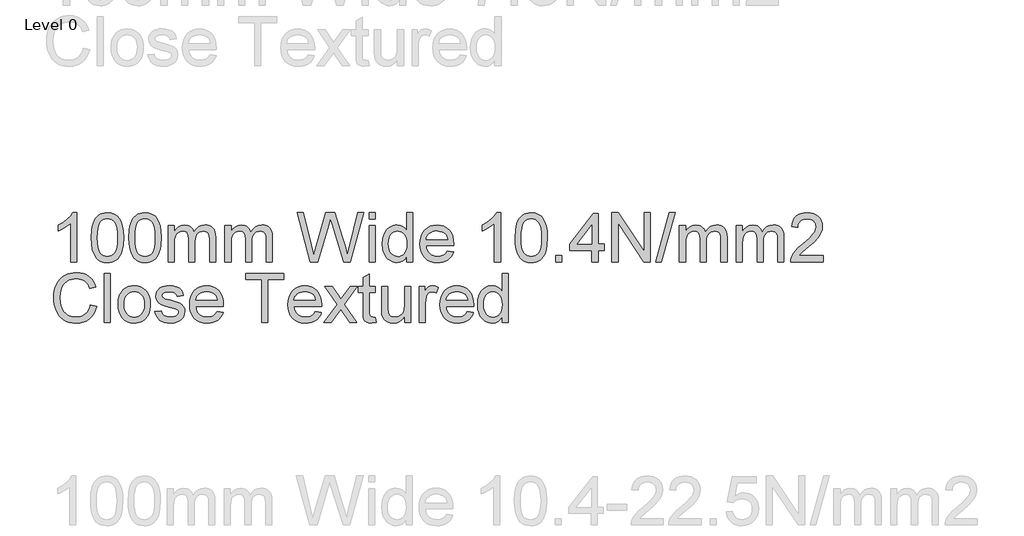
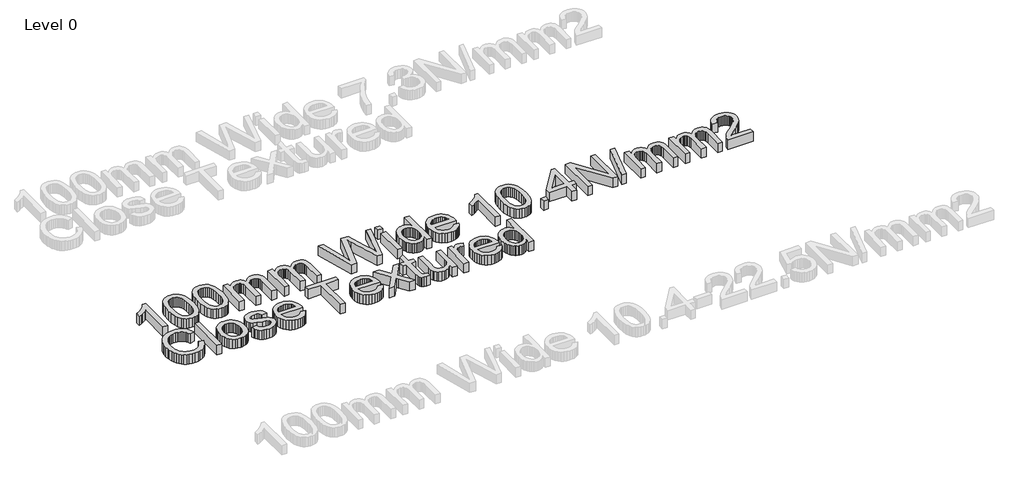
# One storey, part 2 of 14: 1 proxy.
"""IFC4 building model written with IfcOpenShell, lengths in millimetres."""

from ifc_helpers import new_model, si_unit, origin, origin_with_axes, place, context, project, spatial, polyline, outline, extrude, element, save

model = new_model("IFC4")

# Units and contexts
model_context = context("Model", 3, world=origin())
ifc_project = project(units=[si_unit("LENGTHUNIT", "METRE", prefix="MILLI")], contexts=[model_context])

# Site, building, storey
site = spatial("IfcSite", under=ifc_project)
building = spatial("IfcBuilding", under=site)
storey = spatial("IfcBuildingStorey", under=building, Name="Level 0", Elevation=0.0)

# Proxy
placement = place(None, origin())
element("IfcBuildingElementProxy", 1, Name="600mm Arial", ObjectType="600mm Arial", at=placement, inside=storey, context=model_context, shape_type="SweptSolid", body=[
    extrude(outline(polyline([(-37554.2481228, 6170.621248), (-37628.0942766, 6170.621248), (-37628.0942766, 6631.0058634), (-37658.9236035, 6606.0719692), (-37698.0461997, 6581.1741326), (-37739.1159112, 6559.4133153), (-37775.7865843, 6543.8904788), (-37775.7865843, 6613.6981711), (-37717.7877862, 6645.2486519), (-37667.541392, 6682.7847096), (-37627.932017, 6722.7005749), (-37601.8442766, 6761.3904788), (-37554.2481228, 6761.3904788), (-37554.2481228, 6170.621248)])), origin_with_axes(), (0.0, 0.0, 1.0), 150.0),
    extrude(outline(polyline([(-37378.8635074, 6461.246248), (-37373.4368247, 6555.8075461), (-37366.6534713, 6595.9082071), (-37357.1567766, 6631.2222096), (-37344.9873055, 6662.0380148), (-37330.1856228, 6688.6440846), (-37312.7517285, 6711.0404187), (-37292.6856228, 6729.2270172), (-37269.9196973, 6743.2985317), (-37244.3863439, 6753.3496134), (-37216.0855627, 6759.3802624), (-37185.0173535, 6761.3904788), (-37139.5125458, 6756.6308634), (-37098.7673535, 6742.3520172), (-37064.6928343, 6719.1128346), (-37039.2000458, 6687.4722096), (-37019.9452382, 6647.7005749), (-37004.5846612, 6600.0683634), (-36994.5245651, 6539.5815846), (-36991.1711997, 6461.246248), (-36996.5437958, 6367.2258153), (-37003.259541, 6327.2603706), (-37012.6615843, 6291.9914403), (-37024.736404, 6261.1621134), (-37039.4704785, 6234.5154788), (-37056.8638079, 6212.0515365), (-37076.916392, 6193.7702865), (-37099.7093608, 6179.6041206), (-37125.3238439, 6169.4854307), (-37153.7598415, 6163.4142168), (-37185.0173535, 6161.3904788), (-37225.6904305, 6164.9061038), (-37261.7481228, 6175.4529788), (-37293.1904305, 6193.0311038), (-37320.0173535, 6217.6404788), (-37345.7625458, 6262.1266567), (-37364.1519689, 6317.5563442), (-37375.1856228, 6383.9295413), (-37378.8635074, 6461.246248)]), holes=[polyline([(-37305.0173535, 6461.3904788), (-37302.853892, 6397.1942648), (-37296.3635074, 6345.230623), (-37285.5461997, 6305.4995533), (-37270.4019689, 6278.0010557), (-37252.0846612, 6259.2916206), (-37231.7481228, 6245.9277384), (-37209.3923535, 6237.9094091), (-37185.0173535, 6235.2366326), (-37160.6423535, 6237.9184235), (-37138.2865843, 6245.9637961), (-37117.9500458, 6259.3727504), (-37099.6327382, 6278.1452865), (-37084.4885074, 6305.6888562), (-37073.6711997, 6345.4109115), (-37067.1808151, 6397.3114523), (-37065.0173535, 6461.3904788), (-37067.1086997, 6523.887474), (-37073.3827382, 6574.9361519), (-37083.8394689, 6614.5365124), (-37098.478892, 6642.6885557), (-37116.4897093, 6662.3129547), (-37137.0606228, 6676.3303826), (-37160.1916324, 6684.7408394), (-37185.8827382, 6687.5443249), (-37210.1315362, 6685.074373), (-37232.1086997, 6677.6645172), (-37251.8142285, 6665.3147576), (-37269.2481228, 6648.0250942), (-37284.8971612, 6617.3760557), (-37296.0750458, 6576.0539403), (-37302.7817766, 6524.058748), (-37305.0173535, 6461.3904788)])]), origin_with_axes(), (0.0, 0.0, 1.0), 150.0),
    extrude(outline(polyline([(-36926.5558151, 6461.246248), (-36921.1291324, 6555.8075461), (-36914.345779, 6595.9082071), (-36904.8490843, 6631.2222096), (-36892.6796132, 6662.0380148), (-36877.8779305, 6688.6440846), (-36860.4440362, 6711.0404187), (-36840.3779305, 6729.2270172), (-36817.612005, 6743.2985317), (-36792.0786516, 6753.3496134), (-36763.7778704, 6759.3802624), (-36732.7096612, 6761.3904788), (-36687.2048535, 6756.6308634), (-36646.4596612, 6742.3520172), (-36612.385142, 6719.1128346), (-36586.8923535, 6687.4722096), (-36567.6375458, 6647.7005749), (-36552.2769689, 6600.0683634), (-36542.2168728, 6539.5815846), (-36538.8635074, 6461.246248), (-36544.2361035, 6367.2258153), (-36550.9518487, 6327.2603706), (-36560.353892, 6291.9914403), (-36572.4287117, 6261.1621134), (-36587.1627862, 6234.5154788), (-36604.5561156, 6212.0515365), (-36624.6086997, 6193.7702865), (-36647.4016684, 6179.6041206), (-36673.0161516, 6169.4854307), (-36701.4521492, 6163.4142168), (-36732.7096612, 6161.3904788), (-36773.3827382, 6164.9061038), (-36809.4404305, 6175.4529788), (-36840.8827382, 6193.0311038), (-36867.7096612, 6217.6404788), (-36893.4548535, 6262.1266567), (-36911.8442766, 6317.5563442), (-36922.8779305, 6383.9295413), (-36926.5558151, 6461.246248)]), holes=[polyline([(-36852.7096612, 6461.3904788), (-36850.5461997, 6397.1942648), (-36844.0558151, 6345.230623), (-36833.2385074, 6305.4995533), (-36818.0942766, 6278.0010557), (-36799.7769689, 6259.2916206), (-36779.4404305, 6245.9277384), (-36757.0846612, 6237.9094091), (-36732.7096612, 6235.2366326), (-36708.3346612, 6237.9184235), (-36685.978892, 6245.9637961), (-36665.6423535, 6259.3727504), (-36647.3250458, 6278.1452865), (-36632.1808151, 6305.6888562), (-36621.3635074, 6345.4109115), (-36614.8731228, 6397.3114523), (-36612.7096612, 6461.3904788), (-36614.8010074, 6523.887474), (-36621.0750458, 6574.9361519), (-36631.5317766, 6614.5365124), (-36646.1711997, 6642.6885557), (-36664.182017, 6662.3129547), (-36684.7529305, 6676.3303826), (-36707.8839401, 6684.7408394), (-36733.5750458, 6687.5443249), (-36757.8238439, 6685.074373), (-36779.8010074, 6677.6645172), (-36799.5065362, 6665.3147576), (-36816.9404305, 6648.0250942), (-36832.5894689, 6617.3760557), (-36843.7673535, 6576.0539403), (-36850.4740843, 6524.058748), (-36852.7096612, 6461.3904788)])]), origin_with_axes(), (0.0, 0.0, 1.0), 150.0),
    extrude(outline(polyline([(-36455.7865843, 6170.621248), (-36455.7865843, 6604.4674019), (-36381.9404305, 6604.4674019), (-36381.9404305, 6533.0731711), (-36359.728892, 6565.8676422), (-36331.1711997, 6591.558748), (-36297.2409112, 6608.1633153), (-36258.9115843, 6613.6981711), (-36217.8418728, 6608.0551422), (-36200.3629064, 6601.0013562), (-36184.9211997, 6591.1260557), (-36160.3298535, 6564.0286999), (-36144.2481228, 6527.8808634), (-36117.3310555, 6565.4259355), (-36086.6279305, 6592.2438442), (-36052.1387478, 6608.3345894), (-36013.8635074, 6613.6981711), (-35984.3007069, 6611.4671014), (-35958.3526901, 6604.7738922), (-35936.0194569, 6593.6185437), (-35917.3010074, 6578.0010557), (-35902.5038319, 6557.7411398), (-35891.9344208, 6532.6585076), (-35885.5927742, 6502.7531591), (-35883.478892, 6468.0250942), (-35883.478892, 6170.621248), (-35957.3250458, 6170.621248), (-35957.3250458, 6436.2943249), (-35959.0377862, 6473.1272576), (-35964.1760074, 6497.9529788), (-35973.8034112, 6514.9541807), (-35988.9836997, 6528.3135557), (-36008.5089401, 6536.9674019), (-36031.1711997, 6539.8520172), (-36052.0981829, 6538.0040605), (-36071.1772093, 6532.4601903), (-36088.408279, 6523.2204067), (-36103.791392, 6510.2847096), (-36116.4431348, 6493.2744932), (-36125.4800939, 6471.8111519), (-36130.9022694, 6445.8946855), (-36132.7096612, 6415.5250942), (-36132.7096612, 6170.621248), (-36206.5558151, 6170.621248), (-36206.5558151, 6444.5154788), (-36210.8286516, 6486.2702865), (-36223.6471612, 6516.0539403), (-36233.5585194, 6526.465599), (-36246.2012478, 6533.902498), (-36261.5753463, 6538.3646374), (-36279.6808151, 6539.8520172), (-36308.1303343, 6535.8856711), (-36334.3442766, 6523.9866326), (-36355.978892, 6504.4433634), (-36370.6904305, 6477.5443249), (-36379.1279305, 6440.2246134), (-36381.9404305, 6389.4193249), (-36381.9404305, 6170.621248), (-36455.7865843, 6170.621248)])), origin_with_axes(), (0.0, 0.0, 1.0), 150.0),
    extrude(outline(polyline([(-35772.7096612, 6170.621248), (-35772.7096612, 6604.4674019), (-35698.8635074, 6604.4674019), (-35698.8635074, 6533.0731711), (-35676.6519689, 6565.8676422), (-35648.0942766, 6591.558748), (-35614.1639882, 6608.1633153), (-35575.8346612, 6613.6981711), (-35534.7649497, 6608.0551422), (-35517.2859833, 6601.0013562), (-35501.8442766, 6591.1260557), (-35477.2529305, 6564.0286999), (-35461.1711997, 6527.8808634), (-35434.2541324, 6565.4259355), (-35403.5510074, 6592.2438442), (-35369.0618247, 6608.3345894), (-35330.7865843, 6613.6981711), (-35301.2237838, 6611.4671014), (-35275.275767, 6604.7738922), (-35252.9425338, 6593.6185437), (-35234.2240843, 6578.0010557), (-35219.4269088, 6557.7411398), (-35208.8574978, 6532.6585076), (-35202.5158511, 6502.7531591), (-35200.4019689, 6468.0250942), (-35200.4019689, 6170.621248), (-35274.2481228, 6170.621248), (-35274.2481228, 6436.2943249), (-35275.9608632, 6473.1272576), (-35281.0990843, 6497.9529788), (-35290.7264882, 6514.9541807), (-35305.9067766, 6528.3135557), (-35325.432017, 6536.9674019), (-35348.0942766, 6539.8520172), (-35369.0212598, 6538.0040605), (-35388.1002862, 6532.4601903), (-35405.3313559, 6523.2204067), (-35420.7144689, 6510.2847096), (-35433.3662117, 6493.2744932), (-35442.4031708, 6471.8111519), (-35447.8253463, 6445.8946855), (-35449.6327382, 6415.5250942), (-35449.6327382, 6170.621248), (-35523.478892, 6170.621248), (-35523.478892, 6444.5154788), (-35527.7517285, 6486.2702865), (-35540.5702382, 6516.0539403), (-35550.4815963, 6526.465599), (-35563.1243247, 6533.902498), (-35578.4984233, 6538.3646374), (-35596.603892, 6539.8520172), (-35625.0534112, 6535.8856711), (-35651.2673535, 6523.9866326), (-35672.9019689, 6504.4433634), (-35687.6135074, 6477.5443249), (-35696.0510074, 6440.2246134), (-35698.8635074, 6389.4193249), (-35698.8635074, 6170.621248), (-35772.7096612, 6170.621248)])), origin_with_axes(), (0.0, 0.0, 1.0), 150.0),
    extrude(outline(polyline([(-34743.9115843, 6170.621248), (-34905.0173535, 6761.3904788), (-34828.8635074, 6761.3904788), (-34735.4019689, 6373.121248), (-34706.5558151, 6253.2654788), (-34675.6904305, 6359.2750942), (-34558.5750458, 6761.3904788), (-34448.8154305, 6761.3904788), (-34363.7192766, 6469.9000942), (-34327.2649497, 6361.7270172), (-34300.4019689, 6253.2654788), (-34272.4211997, 6369.6597096), (-34178.0942766, 6761.3904788), (-34101.9404305, 6761.3904788), (-34263.1904305, 6170.621248), (-34342.0846612, 6170.621248), (-34483.7192766, 6626.3904788), (-34503.478892, 6689.996248), (-34525.6904305, 6613.4097096), (-34654.7769689, 6170.621248), (-34743.9115843, 6170.621248)])), origin_with_axes(), (0.0, 0.0, 1.0), 150.0),
    extrude(outline(polyline([(-34037.3250458, 6170.621248), (-34037.3250458, 6604.4674019), (-33963.478892, 6604.4674019), (-33963.478892, 6170.621248), (-34037.3250458, 6170.621248)])), origin_with_axes(), (0.0, 0.0, 1.0), 150.0),
    extrude(outline(polyline([(-34037.3250458, 6687.5443249), (-34037.3250458, 6761.3904788), (-33963.478892, 6761.3904788), (-33963.478892, 6687.5443249), (-34037.3250458, 6687.5443249)])), origin_with_axes(), (0.0, 0.0, 1.0), 150.0),
    extrude(outline(polyline([(-33585.0173535, 6170.621248), (-33585.0173535, 6240.2847096), (-33607.1117045, 6205.7684836), (-33633.8755266, 6181.1140365), (-33665.3088199, 6166.3213682), (-33701.4115843, 6161.3904788), (-33725.7865843, 6163.1753346), (-33749.1519689, 6168.5299019), (-33771.5077382, 6177.4541807), (-33792.853892, 6189.9481711), (-33812.5233632, 6205.6377745), (-33829.8490843, 6224.1488922), (-33844.8310555, 6245.4815245), (-33857.4692766, 6269.6356711), (-33867.5023295, 6296.1515966), (-33874.6687958, 6324.5695653), (-33880.4019689, 6387.1116326), (-33875.119517, 6448.8784596), (-33859.2721612, 6504.6597096), (-33847.3911516, 6529.512474), (-33832.8779305, 6551.2823057), (-33815.7324978, 6569.9692047), (-33795.9548535, 6585.5731711), (-33774.2436156, 6597.8778586), (-33751.2974016, 6606.6669211), (-33727.1162117, 6611.9403586), (-33701.7000458, 6613.6981711), (-33665.5702382, 6608.668123), (-33633.6231228, 6593.5779788), (-33606.5437958, 6570.4469692), (-33585.0173535, 6541.2943249), (-33585.0173535, 6761.3904788), (-33511.1711997, 6761.3904788), (-33511.1711997, 6170.621248), (-33585.0173535, 6170.621248)]), holes=[polyline([(-33806.5558151, 6387.4000942), (-33804.4734833, 6351.5902985), (-33798.2264882, 6320.6032192), (-33787.8148295, 6294.4388562), (-33773.2385074, 6273.0972096), (-33755.8316564, 6256.5332071), (-33736.9284112, 6244.7017769), (-33716.5287718, 6237.6029187), (-33694.6327382, 6235.2366326), (-33672.6330386, 6237.4947456), (-33652.3550939, 6244.2690846), (-33633.798904, 6255.5596495), (-33616.9644689, 6271.3664403), (-33602.9876059, 6291.8156591), (-33593.0041324, 6317.0335076), (-33587.0140483, 6347.019986), (-33585.0173535, 6381.7750942), (-33587.0501059, 6419.8790605), (-33593.1483632, 6452.5563442), (-33603.3121252, 6479.8069451), (-33617.541392, 6501.6308634), (-33634.7454184, 6518.3526182), (-33653.8334593, 6530.2967288), (-33674.8055146, 6537.4631951), (-33697.6615843, 6539.8520172), (-33719.9903103, 6537.5578466), (-33740.3899497, 6530.6753346), (-33758.8605026, 6519.2044812), (-33775.4019689, 6503.1452865), (-33789.0317766, 6482.1461879), (-33798.7673535, 6455.855623), (-33804.6086997, 6424.2735918), (-33806.5558151, 6387.4000942)])]), origin_with_axes(), (0.0, 0.0, 1.0), 150.0),
    extrude(outline(polyline([(-33096.6519689, 6299.8520172), (-33024.2481228, 6290.621248), (-33035.3493848, 6261.621849), (-33050.3358632, 6236.0659596), (-33069.2075579, 6213.9535797), (-33091.9644689, 6195.2847096), (-33118.3722213, 6180.4559836), (-33148.1964401, 6169.8640365), (-33181.4371252, 6163.5088682), (-33218.0942766, 6161.3904788), (-33263.9145891, 6165.0458273), (-33304.7409112, 6176.011873), (-33340.573243, 6194.2886158), (-33371.4115843, 6219.8760557), (-33396.2102622, 6252.0620533), (-33413.9236035, 6290.1344692), (-33424.5516083, 6334.0933033), (-33428.0942766, 6383.9385557), (-33424.5155507, 6435.4740124), (-33413.7793728, 6480.8976903), (-33395.885743, 6520.2095894), (-33370.8346612, 6553.4097096), (-33340.0774497, 6579.7859115), (-33305.0654305, 6598.6260557), (-33265.7986035, 6609.9301422), (-33222.2769689, 6613.6981711), (-33180.1570771, 6609.9391567), (-33142.0666324, 6598.6621134), (-33108.0056348, 6579.8670413), (-33077.9740843, 6553.5539403), (-33053.4593608, 6520.4259355), (-33035.9488439, 6481.1861519), (-33025.4425338, 6435.8345894), (-33021.9404305, 6384.371248), (-33022.3731228, 6364.4674019), (-33354.2481228, 6364.4674019), (-33349.970779, 6334.9992528), (-33341.4656708, 6309.1909596), (-33328.7327983, 6287.0425221), (-33311.7721612, 6268.5539403), (-33291.5212598, 6253.9776182), (-33268.9175939, 6243.5659596), (-33243.9611636, 6237.3189644), (-33216.6519689, 6235.2366326), (-33177.3490843, 6239.0948057), (-33144.2481228, 6250.6693249), (-33117.3490843, 6270.6813442), (-33096.6519689, 6299.8520172)]), holes=[polyline([(-33354.2481228, 6438.3135557), (-33095.7865843, 6438.3135557), (-33105.7745651, 6477.3279788), (-33114.3653103, 6492.6705269), (-33125.353892, 6505.2366326), (-33145.4921132, 6520.3808634), (-33168.4067766, 6531.1981711), (-33194.0978824, 6537.6885557), (-33222.5654305, 6539.8520172), (-33248.5314761, 6538.1257552), (-33272.3430747, 6532.9469692), (-33294.0002261, 6524.3156591), (-33313.5029305, 6512.2318249), (-33329.8686156, 6497.254361), (-33342.1147093, 6479.9421615), (-33350.2412117, 6460.2952264), (-33354.2481228, 6438.3135557)])]), origin_with_axes(), (0.0, 0.0, 1.0), 150.0),
    extrude(outline(polyline([(-32458.8635074, 6170.621248), (-32532.7096612, 6170.621248), (-32532.7096612, 6631.0058634), (-32563.5389882, 6606.0719692), (-32602.6615843, 6581.1741326), (-32643.7312958, 6559.4133153), (-32680.4019689, 6543.8904788), (-32680.4019689, 6613.6981711), (-32622.4031708, 6645.2486519), (-32572.1567766, 6682.7847096), (-32532.5474016, 6722.7005749), (-32506.4596612, 6761.3904788), (-32458.8635074, 6761.3904788), (-32458.8635074, 6170.621248)])), origin_with_axes(), (0.0, 0.0, 1.0), 150.0),
    extrude(outline(polyline([(-32283.478892, 6461.246248), (-32278.0522093, 6555.8075461), (-32271.2688559, 6595.9082071), (-32261.7721612, 6631.2222096), (-32249.6026901, 6662.0380148), (-32234.8010074, 6688.6440846), (-32217.3671132, 6711.0404187), (-32197.3010074, 6729.2270172), (-32174.5350819, 6743.2985317), (-32149.0017285, 6753.3496134), (-32120.7009473, 6759.3802624), (-32089.6327382, 6761.3904788), (-32044.1279305, 6756.6308634), (-32003.3827382, 6742.3520172), (-31969.3082189, 6719.1128346), (-31943.8154305, 6687.4722096), (-31924.5606228, 6647.7005749), (-31909.2000458, 6600.0683634), (-31899.1399497, 6539.5815846), (-31895.7865843, 6461.246248), (-31901.1591805, 6367.2258153), (-31907.8749257, 6327.2603706), (-31917.2769689, 6291.9914403), (-31929.3517886, 6261.1621134), (-31944.0858632, 6234.5154788), (-31961.4791925, 6212.0515365), (-31981.5317766, 6193.7702865), (-32004.3247454, 6179.6041206), (-32029.9392285, 6169.4854307), (-32058.3752261, 6163.4142168), (-32089.6327382, 6161.3904788), (-32130.3058151, 6164.9061038), (-32166.3635074, 6175.4529788), (-32197.8058151, 6193.0311038), (-32224.6327382, 6217.6404788), (-32250.3779305, 6262.1266567), (-32268.7673535, 6317.5563442), (-32279.8010074, 6383.9295413), (-32283.478892, 6461.246248)]), holes=[polyline([(-32209.6327382, 6461.3904788), (-32207.4692766, 6397.1942648), (-32200.978892, 6345.230623), (-32190.1615843, 6305.4995533), (-32175.0173535, 6278.0010557), (-32156.7000458, 6259.2916206), (-32136.3635074, 6245.9277384), (-32114.0077382, 6237.9094091), (-32089.6327382, 6235.2366326), (-32065.2577382, 6237.9184235), (-32042.9019689, 6245.9637961), (-32022.5654305, 6259.3727504), (-32004.2481228, 6278.1452865), (-31989.103892, 6305.6888562), (-31978.2865843, 6345.4109115), (-31971.7961997, 6397.3114523), (-31969.6327382, 6461.3904788), (-31971.7240843, 6523.887474), (-31977.9981228, 6574.9361519), (-31988.4548535, 6614.5365124), (-32003.0942766, 6642.6885557), (-32021.1050939, 6662.3129547), (-32041.6760074, 6676.3303826), (-32064.807017, 6684.7408394), (-32090.4981228, 6687.5443249), (-32114.7469208, 6685.074373), (-32136.7240843, 6677.6645172), (-32156.4296132, 6665.3147576), (-32173.8635074, 6648.0250942), (-32189.5125458, 6617.3760557), (-32200.6904305, 6576.0539403), (-32207.3971612, 6524.058748), (-32209.6327382, 6461.3904788)])]), origin_with_axes(), (0.0, 0.0, 1.0), 150.0),
    extrude(outline(polyline([(-31794.2481228, 6170.621248), (-31794.2481228, 6244.4674019), (-31720.4019689, 6244.4674019), (-31720.4019689, 6170.621248), (-31794.2481228, 6170.621248)])), origin_with_axes(), (0.0, 0.0, 1.0), 150.0),
    extrude(outline(polyline([(-31360.4019689, 6170.621248), (-31360.4019689, 6309.0827865), (-31628.0942766, 6309.0827865), (-31628.0942766, 6382.9289403), (-31341.9404305, 6752.1597096), (-31286.5558151, 6752.1597096), (-31286.5558151, 6382.9289403), (-31212.7096612, 6382.9289403), (-31212.7096612, 6309.0827865), (-31286.5558151, 6309.0827865), (-31286.5558151, 6170.621248), (-31360.4019689, 6170.621248)]), holes=[polyline([(-31360.4019689, 6382.9289403), (-31360.4019689, 6611.1020172), (-31537.228892, 6382.9289403), (-31360.4019689, 6382.9289403)])]), origin_with_axes(), (0.0, 0.0, 1.0), 150.0),
    extrude(outline(polyline([(-31120.4019689, 6170.621248), (-31120.4019689, 6761.3904788), (-31041.3635074, 6761.3904788), (-30732.7096612, 6293.3616326), (-30732.7096612, 6761.3904788), (-30658.8635074, 6761.3904788), (-30658.8635074, 6170.621248), (-30737.9019689, 6170.621248), (-31046.5558151, 6638.7943249), (-31046.5558151, 6170.621248), (-31120.4019689, 6170.621248)])), origin_with_axes(), (0.0, 0.0, 1.0), 150.0),
    extrude(outline(polyline([(-30594.2481228, 6170.621248), (-30428.0942766, 6761.3904788), (-30361.4596612, 6761.3904788), (-30527.6135074, 6170.621248), (-30594.2481228, 6170.621248)])), origin_with_axes(), (0.0, 0.0, 1.0), 150.0),
    extrude(outline(polyline([(-30308.0942766, 6170.621248), (-30308.0942766, 6604.4674019), (-30234.2481228, 6604.4674019), (-30234.2481228, 6533.0731711), (-30212.0365843, 6565.8676422), (-30183.478892, 6591.558748), (-30149.5486035, 6608.1633153), (-30111.2192766, 6613.6981711), (-30070.1495651, 6608.0551422), (-30052.6705987, 6601.0013562), (-30037.228892, 6591.1260557), (-30012.6375458, 6564.0286999), (-29996.5558151, 6527.8808634), (-29969.6387478, 6565.4259355), (-29938.9356228, 6592.2438442), (-29904.4464401, 6608.3345894), (-29866.1711997, 6613.6981711), (-29836.6083992, 6611.4671014), (-29810.6603824, 6604.7738922), (-29788.3271492, 6593.6185437), (-29769.6086997, 6578.0010557), (-29754.8115242, 6557.7411398), (-29744.2421132, 6532.6585076), (-29737.9004665, 6502.7531591), (-29735.7865843, 6468.0250942), (-29735.7865843, 6170.621248), (-29809.6327382, 6170.621248), (-29809.6327382, 6436.2943249), (-29811.3454785, 6473.1272576), (-29816.4836997, 6497.9529788), (-29826.1111035, 6514.9541807), (-29841.291392, 6528.3135557), (-29860.8166324, 6536.9674019), (-29883.478892, 6539.8520172), (-29904.4058752, 6538.0040605), (-29923.4849016, 6532.4601903), (-29940.7159713, 6523.2204067), (-29956.0990843, 6510.2847096), (-29968.7508271, 6493.2744932), (-29977.7877862, 6471.8111519), (-29983.2099617, 6445.8946855), (-29985.0173535, 6415.5250942), (-29985.0173535, 6170.621248), (-30058.8635074, 6170.621248), (-30058.8635074, 6444.5154788), (-30063.1363439, 6486.2702865), (-30075.9548535, 6516.0539403), (-30085.8662117, 6526.465599), (-30098.5089401, 6533.902498), (-30113.8830386, 6538.3646374), (-30131.9885074, 6539.8520172), (-30160.4380266, 6535.8856711), (-30186.6519689, 6523.9866326), (-30208.2865843, 6504.4433634), (-30222.9981228, 6477.5443249), (-30231.4356228, 6440.2246134), (-30234.2481228, 6389.4193249), (-30234.2481228, 6170.621248), (-30308.0942766, 6170.621248)])), origin_with_axes(), (0.0, 0.0, 1.0), 150.0),
    extrude(outline(polyline([(-29625.0173535, 6170.621248), (-29625.0173535, 6604.4674019), (-29551.1711997, 6604.4674019), (-29551.1711997, 6533.0731711), (-29528.9596612, 6565.8676422), (-29500.4019689, 6591.558748), (-29466.4716805, 6608.1633153), (-29428.1423535, 6613.6981711), (-29387.072642, 6608.0551422), (-29369.5936757, 6601.0013562), (-29354.1519689, 6591.1260557), (-29329.5606228, 6564.0286999), (-29313.478892, 6527.8808634), (-29286.5618247, 6565.4259355), (-29255.8586997, 6592.2438442), (-29221.369517, 6608.3345894), (-29183.0942766, 6613.6981711), (-29153.5314761, 6611.4671014), (-29127.5834593, 6604.7738922), (-29105.2502261, 6593.6185437), (-29086.5317766, 6578.0010557), (-29071.7346011, 6557.7411398), (-29061.1651901, 6532.6585076), (-29054.8235434, 6502.7531591), (-29052.7096612, 6468.0250942), (-29052.7096612, 6170.621248), (-29126.5558151, 6170.621248), (-29126.5558151, 6436.2943249), (-29128.2685555, 6473.1272576), (-29133.4067766, 6497.9529788), (-29143.0341805, 6514.9541807), (-29158.2144689, 6528.3135557), (-29177.7397093, 6536.9674019), (-29200.4019689, 6539.8520172), (-29221.3289521, 6538.0040605), (-29240.4079785, 6532.4601903), (-29257.6390483, 6523.2204067), (-29273.0221612, 6510.2847096), (-29285.673904, 6493.2744932), (-29294.7108632, 6471.8111519), (-29300.1330386, 6445.8946855), (-29301.9404305, 6415.5250942), (-29301.9404305, 6170.621248), (-29375.7865843, 6170.621248), (-29375.7865843, 6444.5154788), (-29380.0594208, 6486.2702865), (-29392.8779305, 6516.0539403), (-29402.7892886, 6526.465599), (-29415.432017, 6533.902498), (-29430.8061156, 6538.3646374), (-29448.9115843, 6539.8520172), (-29477.3611035, 6535.8856711), (-29503.5750458, 6523.9866326), (-29525.2096612, 6504.4433634), (-29539.9211997, 6477.5443249), (-29548.3586997, 6440.2246134), (-29551.1711997, 6389.4193249), (-29551.1711997, 6170.621248), (-29625.0173535, 6170.621248)])), origin_with_axes(), (0.0, 0.0, 1.0), 150.0),
    extrude(outline(polyline([(-28581.9404305, 6244.4674019), (-28581.9404305, 6170.621248), (-28969.6327382, 6170.621248), (-28968.010142, 6196.6188442), (-28961.7000458, 6221.5347096), (-28943.4909112, 6261.324373), (-28916.8442766, 6299.9241326), (-28878.2986035, 6340.3267769), (-28824.3923535, 6385.5250942), (-28744.7048535, 6456.3063442), (-28696.8923535, 6508.5539403), (-28682.947041, 6529.9000942), (-28672.9861035, 6550.9577865), (-28667.009541, 6571.7270172), (-28665.0173535, 6592.2077865), (-28666.8968608, 6611.4761158), (-28672.5353824, 6629.1849499), (-28681.9329184, 6645.3342889), (-28695.0894689, 6659.9241326), (-28711.2748656, 6672.0079668), (-28729.7589401, 6680.6392769), (-28750.5416925, 6685.8180629), (-28773.6231228, 6687.5443249), (-28797.939529, 6685.8586278), (-28819.6868247, 6680.8015365), (-28838.8650098, 6672.3730509), (-28855.4740843, 6660.5731711), (-28868.9100819, 6645.7985317), (-28878.5690362, 6628.4457672), (-28884.4509473, 6608.5148778), (-28886.5558151, 6586.0058634), (-28960.4019689, 6595.2366326), (-28954.0513079, 6633.3586278), (-28942.4993247, 6666.6669211), (-28925.7460194, 6695.1615124), (-28903.791392, 6718.8424019), (-28877.1402502, 6737.4571855), (-28846.2974016, 6750.7534596), (-28811.2628463, 6758.731224), (-28772.0365843, 6761.3904788), (-28732.4587598, 6758.433748), (-28697.2349016, 6749.5635557), (-28666.3650098, 6734.7799019), (-28639.8490843, 6714.0827865), (-28618.5525098, 6689.0046615), (-28603.3406708, 6661.0779788), (-28594.2135675, 6630.3027384), (-28591.1711997, 6596.6789403), (-28594.4524497, 6561.3604307), (-28604.2961997, 6526.6549019), (-28621.7661516, 6491.3544211), (-28647.9260074, 6454.2510557), (-28689.6267285, 6409.9541807), (-28753.7192766, 6353.0731711), (-28838.6711997, 6282.0395172), (-28871.9885074, 6244.4674019), (-28581.9404305, 6244.4674019)])), origin_with_axes(), (0.0, 0.0, 1.0), 150.0),
    extrude(outline(polyline([(-37388.0942766, 5651.3904788), (-37314.2481228, 5632.3520172), (-37328.8605026, 5586.4280389), (-37348.322642, 5546.3003346), (-37372.634541, 5511.9689043), (-37401.7961997, 5483.433748), (-37435.1495651, 5461.0013562), (-37472.0365843, 5444.9782192), (-37512.4572574, 5435.364337), (-37556.4115843, 5432.1597096), (-37601.4431348, 5434.5845894), (-37642.0666324, 5441.8592288), (-37678.2820771, 5453.9836278), (-37710.0894689, 5470.9577865), (-37737.9260074, 5492.5293009), (-37762.228892, 5518.4457672), (-37782.9981228, 5548.7071855), (-37800.2336997, 5583.3135557), (-37813.7688559, 5620.7684836), (-37823.4368247, 5659.5755749), (-37829.2376059, 5699.7348297), (-37831.1711997, 5741.246248), (-37828.9852021, 5785.7865124), (-37822.4272093, 5827.3880749), (-37811.4972213, 5866.0509355), (-37796.1952382, 5901.7750942), (-37776.8638079, 5933.9701062), (-37753.8454785, 5962.0455269), (-37727.1402502, 5986.0013562), (-37696.7481228, 6005.8375942), (-37663.7012478, 6021.3919812), (-37629.0317766, 6032.5022576), (-37592.7397093, 6039.1684235), (-37554.8250458, 6041.3904788), (-37512.5879665, 6038.5148778), (-37473.8574978, 6029.8880749), (-37438.6336396, 6015.5100701), (-37406.916392, 5995.3808634), (-37379.2285915, 5970.0323057), (-37356.0930747, 5939.996248), (-37337.5098415, 5905.2726903), (-37323.478892, 5865.8616326), (-37397.3250458, 5848.2654788), (-37408.9536516, 5877.3054427), (-37422.9260074, 5902.1176422), (-37439.2421132, 5922.7020773), (-37457.9019689, 5939.058748), (-37479.0137478, 5951.5211879), (-37502.6856228, 5960.4229307), (-37528.9175939, 5965.7639764), (-37557.7096612, 5967.5443249), (-37590.837666, 5965.5701663), (-37621.135142, 5959.6476903), (-37648.6020891, 5949.7768971), (-37673.2385074, 5935.9577865), (-37694.7333992, 5918.8123538), (-37712.775767, 5898.9625942), (-37727.3656108, 5876.4085076), (-37738.5029305, 5851.1500942), (-37752.619517, 5797.0996134), (-37757.3250458, 5741.3904788), (-37751.7541324, 5673.1693249), (-37744.7904906, 5642.5202865), (-37735.041392, 5614.1789403), (-37722.3490843, 5588.7086879), (-37706.5558151, 5566.6729307), (-37687.6615843, 5548.0716687), (-37665.666392, 5532.9049019), (-37641.6384473, 5521.1365725), (-37616.6459593, 5512.730623), (-37590.6889281, 5507.6870533), (-37563.7673535, 5506.0058634), (-37531.6624858, 5508.2955269), (-37502.1267285, 5515.1645172), (-37475.1600819, 5526.6128346), (-37450.7625458, 5542.6404788), (-37429.5110434, 5563.1753346), (-37411.9824978, 5588.1452865), (-37398.1769088, 5617.5503346), (-37388.0942766, 5651.3904788)])), origin_with_axes(), (0.0, 0.0, 1.0), 150.0),
    extrude(outline(polyline([(-37221.9404305, 5441.3904788), (-37221.9404305, 6032.1597096), (-37148.0942766, 6032.1597096), (-37148.0942766, 5441.3904788), (-37221.9404305, 5441.3904788)])), origin_with_axes(), (0.0, 0.0, 1.0), 150.0),
    extrude(outline(polyline([(-37055.7865843, 5658.3135557), (-37051.7931949, 5714.5004547), (-37039.8130266, 5762.9169211), (-37019.8460795, 5803.5629547), (-36991.8923535, 5836.4385557), (-36963.7493247, 5857.4511759), (-36932.6856228, 5872.4601903), (-36898.7012478, 5881.465599), (-36861.7961997, 5884.4674019), (-36821.0555146, 5880.8120533), (-36784.2180747, 5869.8460076), (-36751.28388, 5851.5692648), (-36722.2529305, 5825.9818249), (-36698.5585194, 5793.9490725), (-36681.6339401, 5756.3363922), (-36671.4791925, 5713.1437841), (-36668.0942766, 5664.371248), (-36669.5906708, 5624.8430028), (-36674.0798535, 5589.7678826), (-36681.5618247, 5559.1458874), (-36692.0365843, 5532.9770172), (-36705.3734233, 5510.3733514), (-36721.4416324, 5490.4469692), (-36740.2412117, 5473.1978706), (-36761.7721612, 5458.6260557), (-36785.1961396, 5447.0470293), (-36809.6748055, 5438.7762961), (-36835.2081588, 5433.8138562), (-36861.7961997, 5432.1597096), (-36903.1318367, 5435.8015365), (-36940.3118247, 5446.7270172), (-36973.3361636, 5464.9361519), (-37002.2048535, 5490.4289403), (-37025.6468608, 5522.7726903), (-37042.3911516, 5561.5347096), (-37052.4377261, 5606.714998), (-37055.7865843, 5658.3135557)]), holes=[polyline([(-36981.9404305, 5658.4577865), (-36979.8040122, 5622.6389764), (-36973.3947574, 5591.6248538), (-36962.712666, 5565.4154187), (-36947.7577382, 5544.0106711), (-36929.5666324, 5527.3835677), (-36909.1760074, 5515.5070653), (-36886.5858632, 5508.3811639), (-36861.7961997, 5506.0058634), (-36837.1327382, 5508.3946855), (-36814.6327382, 5515.5611519), (-36794.2961997, 5527.5052624), (-36776.1231228, 5544.2270172), (-36761.1681949, 5565.8436038), (-36750.4861035, 5592.4722096), (-36744.0768487, 5624.1128346), (-36741.9404305, 5660.7654788), (-36744.0903704, 5695.4484716), (-36750.5401901, 5725.6512961), (-36761.2898896, 5751.3739523), (-36776.3394689, 5772.6164403), (-36794.580154, 5789.2435437), (-36814.9031708, 5801.1200461), (-36837.3085194, 5808.2459475), (-36861.7961997, 5810.621248), (-36886.5858632, 5808.254962), (-36909.1760074, 5801.1561038), (-36929.5666324, 5789.3246735), (-36947.7577382, 5772.7606711), (-36962.712666, 5751.4190245), (-36973.3947574, 5725.2546615), (-36979.8040122, 5694.2675821), (-36981.9404305, 5658.4577865)])]), origin_with_axes(), (0.0, 0.0, 1.0), 150.0),
    extrude(outline(polyline([(-36612.7096612, 5570.621248), (-36538.8635074, 5579.8520172), (-36534.401368, 5563.0130749), (-36527.2168728, 5548.2654788), (-36517.3100218, 5535.6092288), (-36504.6808151, 5525.0443249), (-36489.2931949, 5516.714998), (-36471.1111035, 5510.7654788), (-36426.3635074, 5506.0058634), (-36382.1567766, 5510.3688442), (-36364.9752862, 5515.8225701), (-36351.0750458, 5523.4577865), (-36332.6856228, 5542.4241326), (-36326.5558151, 5564.4193249), (-36328.0972814, 5574.3892769), (-36332.7216805, 5583.2414403), (-36351.2192766, 5597.5924019), (-36378.8755266, 5606.9674019), (-36427.228892, 5618.6500942), (-36494.6207189, 5638.1392769), (-36538.4308151, 5654.7799019), (-36566.5738439, 5672.9349499), (-36586.9644689, 5696.9674019), (-36599.3502862, 5725.3448057), (-36603.478892, 5756.5347096), (-36600.1615843, 5785.1464884), (-36590.2096612, 5811.558748), (-36574.5245651, 5834.7258153), (-36554.0077382, 5853.6020172), (-36533.6171132, 5865.4830269), (-36507.0606228, 5875.4529788), (-36476.3574978, 5882.2137961), (-36443.5269689, 5884.4674019), (-36395.4620651, 5880.8436038), (-36353.6711997, 5869.9722096), (-36320.0654305, 5852.9169211), (-36296.5558151, 5830.7414403), (-36280.978892, 5801.8051422), (-36271.1711997, 5764.4674019), (-36345.0173535, 5755.2366326), (-36354.338267, 5778.4758153), (-36372.7817766, 5795.9818249), (-36400.5281708, 5806.9613922), (-36437.7577382, 5810.621248), (-36480.1615843, 5807.1236519), (-36508.4308151, 5796.6308634), (-36524.3322574, 5781.4866326), (-36529.6327382, 5764.0347096), (-36527.4332189, 5752.6765365), (-36520.8346612, 5742.5443249), (-36509.5486035, 5733.4938442), (-36493.2865843, 5726.246248), (-36429.6808151, 5710.5250942), (-36321.291392, 5675.7654788), (-36292.6615843, 5659.1428826), (-36270.9548535, 5636.3904788), (-36257.2709593, 5607.4361519), (-36252.7096612, 5572.2077865), (-36258.0642285, 5535.7895172), (-36274.1279305, 5501.5347096), (-36300.2877862, 5472.1296615), (-36335.9308151, 5450.2606711), (-36378.9836997, 5436.6849499), (-36427.3731228, 5432.1597096), (-36467.1177141, 5434.3411999), (-36501.8322574, 5440.8856711), (-36531.5167526, 5451.793123), (-36556.1711997, 5467.0635557), (-36576.3094208, 5486.6248538), (-36592.4452382, 5510.4049019), (-36604.5786516, 5538.4036999), (-36612.7096612, 5570.621248)])), origin_with_axes(), (0.0, 0.0, 1.0), 150.0),
    extrude(outline(polyline([(-35865.8827382, 5570.621248), (-35793.478892, 5561.3904788), (-35804.580154, 5532.3910797), (-35819.5666324, 5506.8351903), (-35838.4383271, 5484.7228105), (-35861.1952382, 5466.0539403), (-35887.6029906, 5451.2252144), (-35917.4272093, 5440.6332672), (-35950.6678944, 5434.278099), (-35987.3250458, 5432.1597096), (-36033.1453583, 5435.8150581), (-36073.9716805, 5446.7811038), (-36109.8040122, 5465.0578466), (-36140.6423535, 5490.6452865), (-36165.4410314, 5522.8312841), (-36183.1543728, 5560.9036999), (-36193.7823776, 5604.8625341), (-36197.3250458, 5654.7077865), (-36193.7463199, 5706.2432432), (-36183.010142, 5751.6669211), (-36165.1165122, 5790.9788201), (-36140.0654305, 5824.1789403), (-36109.3082189, 5850.5551422), (-36074.2961997, 5869.3952865), (-36035.0293728, 5880.699373), (-35991.5077382, 5884.4674019), (-35949.3878463, 5880.7083874), (-35911.2974016, 5869.4313442), (-35877.236404, 5850.6362721), (-35847.2048535, 5824.3231711), (-35822.69013, 5791.1951663), (-35805.1796132, 5751.9553826), (-35794.6733031, 5706.6038201), (-35791.1711997, 5655.1404788), (-35791.603892, 5635.2366326), (-36123.478892, 5635.2366326), (-36119.2015483, 5605.7684836), (-36110.6964401, 5579.9601903), (-36097.9635675, 5557.8117528), (-36081.0029305, 5539.3231711), (-36060.752029, 5524.746849), (-36038.1483632, 5514.3351903), (-36013.1919329, 5508.0881951), (-35985.8827382, 5506.0058634), (-35946.5798535, 5509.8640365), (-35913.478892, 5521.4385557), (-35886.5798535, 5541.4505749), (-35865.8827382, 5570.621248)]), holes=[polyline([(-36123.478892, 5709.0827865), (-35865.0173535, 5709.0827865), (-35875.0053343, 5748.0972096), (-35883.5960795, 5763.4397576), (-35894.5846612, 5776.0058634), (-35914.7228824, 5791.1500942), (-35937.6375458, 5801.9674019), (-35963.3286516, 5808.4577865), (-35991.7961997, 5810.621248), (-36017.7622454, 5808.894986), (-36041.5738439, 5803.7161999), (-36063.2309954, 5795.0848898), (-36082.7336997, 5783.0010557), (-36099.0993848, 5768.0235918), (-36111.3454785, 5750.7113922), (-36119.4719809, 5731.0644571), (-36123.478892, 5709.0827865)])]), origin_with_axes(), (0.0, 0.0, 1.0), 150.0),
    extrude(outline(polyline([(-35329.6327382, 5441.3904788), (-35329.6327382, 5958.3135557), (-35523.478892, 5958.3135557), (-35523.478892, 6032.1597096), (-35061.9404305, 6032.1597096), (-35061.9404305, 5958.3135557), (-35255.7865843, 5958.3135557), (-35255.7865843, 5441.3904788), (-35329.6327382, 5441.3904788)])), origin_with_axes(), (0.0, 0.0, 1.0), 150.0),
    extrude(outline(polyline([(-34684.3442766, 5570.621248), (-34611.9404305, 5561.3904788), (-34623.0416925, 5532.3910797), (-34638.0281708, 5506.8351903), (-34656.8998656, 5484.7228105), (-34679.6567766, 5466.0539403), (-34706.064529, 5451.2252144), (-34735.8887478, 5440.6332672), (-34769.1294329, 5434.278099), (-34805.7865843, 5432.1597096), (-34851.6068968, 5435.8150581), (-34892.4332189, 5446.7811038), (-34928.2655507, 5465.0578466), (-34959.103892, 5490.6452865), (-34983.9025699, 5522.8312841), (-35001.6159112, 5560.9036999), (-35012.243916, 5604.8625341), (-35015.7865843, 5654.7077865), (-35012.2078583, 5706.2432432), (-35001.4716805, 5751.6669211), (-34983.5780507, 5790.9788201), (-34958.5269689, 5824.1789403), (-34927.7697574, 5850.5551422), (-34892.7577382, 5869.3952865), (-34853.4909112, 5880.699373), (-34809.9692766, 5884.4674019), (-34767.8493848, 5880.7083874), (-34729.7589401, 5869.4313442), (-34695.6979425, 5850.6362721), (-34665.666392, 5824.3231711), (-34641.1516684, 5791.1951663), (-34623.6411516, 5751.9553826), (-34613.1348415, 5706.6038201), (-34609.6327382, 5655.1404788), (-34610.0654305, 5635.2366326), (-34941.9404305, 5635.2366326), (-34937.6630867, 5605.7684836), (-34929.1579785, 5579.9601903), (-34916.4251059, 5557.8117528), (-34899.4644689, 5539.3231711), (-34879.2135675, 5524.746849), (-34856.6099016, 5514.3351903), (-34831.6534713, 5508.0881951), (-34804.3442766, 5506.0058634), (-34765.041392, 5509.8640365), (-34731.9404305, 5521.4385557), (-34705.041392, 5541.4505749), (-34684.3442766, 5570.621248)]), holes=[polyline([(-34941.9404305, 5709.0827865), (-34683.478892, 5709.0827865), (-34693.4668728, 5748.0972096), (-34702.057618, 5763.4397576), (-34713.0461997, 5776.0058634), (-34733.1844208, 5791.1500942), (-34756.0990843, 5801.9674019), (-34781.7901901, 5808.4577865), (-34810.2577382, 5810.621248), (-34836.2237838, 5808.894986), (-34860.0353824, 5803.7161999), (-34881.6925338, 5795.0848898), (-34901.1952382, 5783.0010557), (-34917.5609233, 5768.0235918), (-34929.807017, 5750.7113922), (-34937.9335194, 5731.0644571), (-34941.9404305, 5709.0827865)])]), origin_with_axes(), (0.0, 0.0, 1.0), 150.0),
    extrude(outline(polyline([(-34581.9404305, 5441.3904788), (-34424.1519689, 5659.4674019), (-34572.7096612, 5875.2366326), (-34483.8635074, 5875.2366326), (-34412.1808151, 5771.3904788), (-34378.7192766, 5722.3520172), (-34349.728892, 5762.4481711), (-34268.0942766, 5875.2366326), (-34179.2481228, 5875.2366326), (-34335.3058151, 5659.4674019), (-34185.0173535, 5441.3904788), (-34273.8635074, 5441.3904788), (-34364.2961997, 5572.496248), (-34380.8827382, 5596.4385557), (-34493.0942766, 5441.3904788), (-34581.9404305, 5441.3904788)])), origin_with_axes(), (0.0, 0.0, 1.0), 150.0),
    extrude(outline(polyline([(-33963.478892, 5502.9770172), (-33954.2481228, 5439.2270172), (-34009.4885074, 5432.1597096), (-34044.9332189, 5435.2246134), (-34071.3635074, 5444.4193249), (-34090.041392, 5458.589998), (-34102.228892, 5476.5827865), (-34108.9356228, 5507.4842288), (-34111.1711997, 5560.3808634), (-34111.1711997, 5801.3904788), (-34166.5558151, 5801.3904788), (-34166.5558151, 5875.2366326), (-34111.1711997, 5875.2366326), (-34111.1711997, 5980.6693249), (-34037.3250458, 6024.0827865), (-34037.3250458, 5875.2366326), (-33963.478892, 5875.2366326), (-33963.478892, 5801.3904788), (-34037.3250458, 5801.3904788), (-34037.3250458, 5562.5443249), (-34033.4308151, 5524.4674019), (-34020.8106228, 5510.9818249), (-34010.1555747, 5507.2498538), (-33995.6423535, 5506.0058634), (-33963.478892, 5502.9770172)])), origin_with_axes(), (0.0, 0.0, 1.0), 150.0),
    extrude(outline(polyline([(-33612.7096612, 5441.3904788), (-33612.7096612, 5515.9577865), (-33639.4284112, 5479.2961278), (-33670.5461997, 5453.1092288), (-33706.0630266, 5437.3970894), (-33745.978892, 5432.1597096), (-33781.9464401, 5435.8375942), (-33815.4260074, 5446.871248), (-33843.5149497, 5463.4577865), (-33863.3106228, 5483.7943249), (-33876.6339401, 5508.4938442), (-33885.3058151, 5538.1693249), (-33889.6327382, 5606.8231711), (-33889.6327382, 5875.2366326), (-33815.7865843, 5875.2366326), (-33815.7865843, 5641.5827865), (-33814.6687958, 5594.8520172), (-33811.3154305, 5566.2943249), (-33800.5522093, 5541.1801422), (-33782.1086997, 5522.0875942), (-33757.2108632, 5510.0262961), (-33727.0846612, 5506.0058634), (-33695.2276901, 5510.1164403), (-33665.4260074, 5522.4481711), (-33640.8526901, 5541.8652384), (-33624.6808151, 5567.2318249), (-33615.7024497, 5601.9734115), (-33612.7096612, 5649.5154788), (-33612.7096612, 5875.2366326), (-33538.8635074, 5875.2366326), (-33538.8635074, 5441.3904788), (-33612.7096612, 5441.3904788)])), origin_with_axes(), (0.0, 0.0, 1.0), 150.0),
    extrude(outline(polyline([(-33437.3250458, 5441.3904788), (-33437.3250458, 5875.2366326), (-33372.7096612, 5875.2366326), (-33372.7096612, 5811.0539403), (-33348.8394689, 5848.2654788), (-33326.8442766, 5870.1885557), (-33304.7769689, 5880.8976903), (-33280.6904305, 5884.4674019), (-33243.9115843, 5878.7702865), (-33206.5558151, 5861.6789403), (-33231.2192766, 5795.4770172), (-33257.1808151, 5806.8351903), (-33283.1423535, 5810.621248), (-33305.1916324, 5806.9794211), (-33324.8971612, 5796.0539403), (-33340.8166324, 5778.6741326), (-33351.5077382, 5755.6693249), (-33360.4861035, 5714.4193249), (-33363.478892, 5669.4193249), (-33363.478892, 5441.3904788), (-33437.3250458, 5441.3904788)])), origin_with_axes(), (0.0, 0.0, 1.0), 150.0),
    extrude(outline(polyline([(-32856.6519689, 5570.621248), (-32784.2481228, 5561.3904788), (-32795.3493848, 5532.3910797), (-32810.3358632, 5506.8351903), (-32829.2075579, 5484.7228105), (-32851.9644689, 5466.0539403), (-32878.3722213, 5451.2252144), (-32908.1964401, 5440.6332672), (-32941.4371252, 5434.278099), (-32978.0942766, 5432.1597096), (-33023.9145891, 5435.8150581), (-33064.7409112, 5446.7811038), (-33100.573243, 5465.0578466), (-33131.4115843, 5490.6452865), (-33156.2102622, 5522.8312841), (-33173.9236035, 5560.9036999), (-33184.5516083, 5604.8625341), (-33188.0942766, 5654.7077865), (-33184.5155507, 5706.2432432), (-33173.7793728, 5751.6669211), (-33155.885743, 5790.9788201), (-33130.8346612, 5824.1789403), (-33100.0774497, 5850.5551422), (-33065.0654305, 5869.3952865), (-33025.7986035, 5880.699373), (-32982.2769689, 5884.4674019), (-32940.1570771, 5880.7083874), (-32902.0666324, 5869.4313442), (-32868.0056348, 5850.6362721), (-32837.9740843, 5824.3231711), (-32813.4593608, 5791.1951663), (-32795.9488439, 5751.9553826), (-32785.4425338, 5706.6038201), (-32781.9404305, 5655.1404788), (-32782.3731228, 5635.2366326), (-33114.2481228, 5635.2366326), (-33109.970779, 5605.7684836), (-33101.4656708, 5579.9601903), (-33088.7327983, 5557.8117528), (-33071.7721612, 5539.3231711), (-33051.5212598, 5524.746849), (-33028.9175939, 5514.3351903), (-33003.9611636, 5508.0881951), (-32976.6519689, 5506.0058634), (-32937.3490843, 5509.8640365), (-32904.2481228, 5521.4385557), (-32877.3490843, 5541.4505749), (-32856.6519689, 5570.621248)]), holes=[polyline([(-33114.2481228, 5709.0827865), (-32855.7865843, 5709.0827865), (-32865.7745651, 5748.0972096), (-32874.3653103, 5763.4397576), (-32885.353892, 5776.0058634), (-32905.4921132, 5791.1500942), (-32928.4067766, 5801.9674019), (-32954.0978824, 5808.4577865), (-32982.5654305, 5810.621248), (-33008.5314761, 5808.894986), (-33032.3430747, 5803.7161999), (-33054.0002261, 5795.0848898), (-33073.5029305, 5783.0010557), (-33089.8686156, 5768.0235918), (-33102.1147093, 5750.7113922), (-33110.2412117, 5731.0644571), (-33114.2481228, 5709.0827865)])]), origin_with_axes(), (0.0, 0.0, 1.0), 150.0),
    extrude(outline(polyline([(-32440.4019689, 5441.3904788), (-32440.4019689, 5511.0539403), (-32462.4963199, 5476.5377144), (-32489.260142, 5451.8832672), (-32520.6934353, 5437.090599), (-32556.7961997, 5432.1597096), (-32581.1711997, 5433.9445653), (-32604.5365843, 5439.2991326), (-32626.8923535, 5448.2234115), (-32648.2385074, 5460.7174019), (-32667.9079785, 5476.4070052), (-32685.2336997, 5494.918123), (-32700.2156708, 5516.2507552), (-32712.853892, 5540.4049019), (-32722.8869449, 5566.9208273), (-32730.0534112, 5595.3387961), (-32735.7865843, 5657.8808634), (-32730.5041324, 5719.6476903), (-32714.6567766, 5775.4289403), (-32702.775767, 5800.2817047), (-32688.2625458, 5822.0515365), (-32671.1171132, 5840.7384355), (-32651.3394689, 5856.3424019), (-32629.6282309, 5868.6470894), (-32606.682017, 5877.4361519), (-32582.5008271, 5882.7095894), (-32557.0846612, 5884.4674019), (-32520.9548535, 5879.4373538), (-32489.0077382, 5864.3472096), (-32461.9284112, 5841.2161999), (-32440.4019689, 5812.0635557), (-32440.4019689, 6032.1597096), (-32366.5558151, 6032.1597096), (-32366.5558151, 5441.3904788), (-32440.4019689, 5441.3904788)]), holes=[polyline([(-32661.9404305, 5658.1693249), (-32659.8580987, 5622.3595293), (-32653.6111035, 5591.3724499), (-32643.1994449, 5565.208087), (-32628.6231228, 5543.8664403), (-32611.2162718, 5527.3024379), (-32592.3130266, 5515.4710076), (-32571.9133872, 5508.3721495), (-32550.0173535, 5506.0058634), (-32528.017654, 5508.2639764), (-32507.7397093, 5515.0383153), (-32489.1835194, 5526.3288802), (-32472.3490843, 5542.1356711), (-32458.3722213, 5562.5848898), (-32448.3887478, 5587.8027384), (-32442.3986636, 5617.7892168), (-32440.4019689, 5652.5443249), (-32442.4347213, 5690.6482913), (-32448.5329785, 5723.3255749), (-32458.6967406, 5750.5761759), (-32472.9260074, 5772.4000942), (-32490.1300338, 5789.121849), (-32509.2180747, 5801.0659596), (-32530.19013, 5808.2324259), (-32553.0461997, 5810.621248), (-32575.3749257, 5808.3270773), (-32595.7745651, 5801.4445653), (-32614.245118, 5789.973712), (-32630.7865843, 5773.9145172), (-32644.416392, 5752.9154187), (-32654.1519689, 5726.6248538), (-32659.9933151, 5695.0428225), (-32661.9404305, 5658.1693249)])]), origin_with_axes(), (0.0, 0.0, 1.0), 150.0),
])

save(model, "model.ifc")
